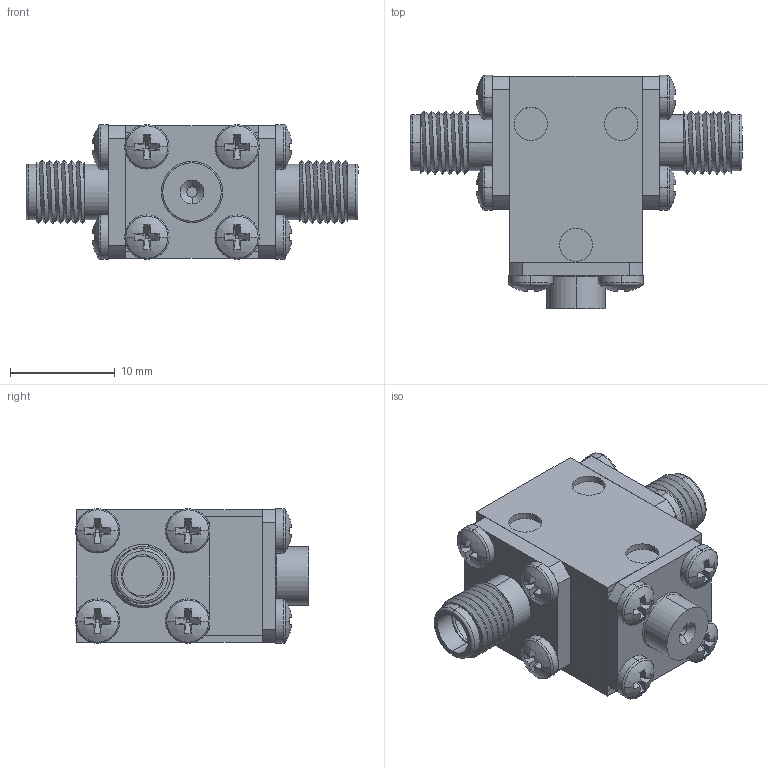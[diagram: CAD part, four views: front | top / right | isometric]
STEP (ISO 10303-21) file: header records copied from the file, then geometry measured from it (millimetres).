
FILE_DESCRIPTION (( 'STEP AP214' ), '1' );
FILE_NAME ('Package 5 Iso FF.step', '2021-12-01T21:01:06', ( '' ), ( '' ), 'SwSTEP 2.0', 'SolidWorks 2016', '' );
FILE_SCHEMA (( 'AUTOMOTIVE_DESIGN' ));
Length unit declared in the file: inch
Products named in the file (6): Delta SMA-Female 0.500 flange Threaded; Package Size 5; 030013-1A; Package 5 Iso FF; pan cross head_ai_CR-PHMS 0.086-56x0.125x0.125-N; Package 5
Assembly tree (17 placements, depth 2):
  Package 5 Iso FF
    Package Size 5
    Package 5
    Delta SMA-Female 0.500 flange Threaded  x2
    030013-1A
    pan cross head_ai_CR-PHMS 0.086-56x0.125x0.125-N  x12
Bounding box: 31.75 x 22.31 x 12.88 mm (x, y, z)
Volume: 3984.1 mm3; surface area: 4972.7 mm2
Topology: 17 solids, 17 shells, 414 faces, 942 edges, 582 vertices
Faces by surface type: plane 228, cylinder 122, torus 30, sphere 24, bspline 6, cone 4
Entity records: 4765 total; most frequent: CARTESIAN_POINT 1369, DIRECTION 717, ORIENTED_EDGE 594, EDGE_CURVE 297, AXIS2_PLACEMENT_3D 289, VERTEX_POINT 191, EDGE_LOOP 160, CIRCLE 150
